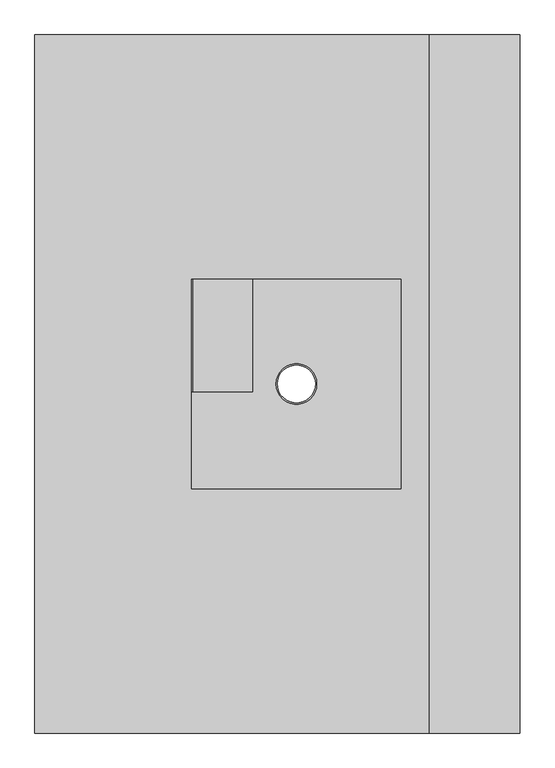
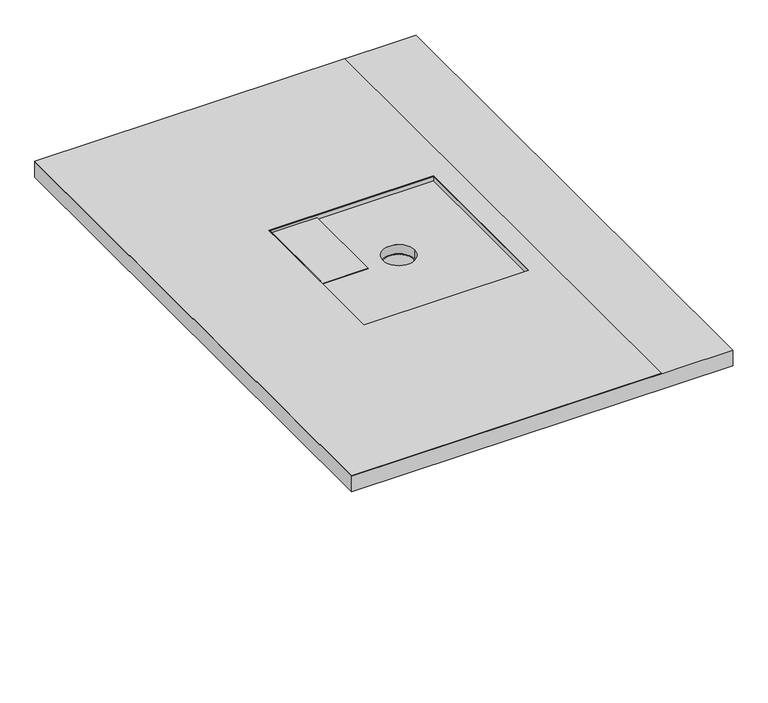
"""IFC4 building model written with IfcOpenShell, lengths in millimetres: proxy geometry, IMPER:IMPER:433934 : IMPER:IMPER:433934."""

from ifc_helpers import new_model, si_unit, point, frame, frame_2d, origin, place, context, project, spatial, polyline, circle_curve, trimmed, segment, composite_curve, outline, extrude, source, transform, mapped, element, save
from ifc_brep_helpers import plane_surface, revolved_surface, advanced_brep


def generic_models_3323e8c3(model_context):
    return source(origin(), model_context, "Body", "SolidModel", [
        extrude(outline(polyline([(28.5018705, 773.6644952), (28.5018705, 772.6644952), (21.4797492, 772.6644952), (21.4797492, 860.1703196), (22.4797492, 860.1703196), (22.4797492, 773.6644952), (28.5018705, 773.6644952)])), frame((0.0, -1249.0790672, 0.0), z_axis=(0.0, 1.0, 0.0), x_axis=(0.0, 0.0, 1.0)), (0.0, 0.0, 1.0), 161.0878647),
        extrude(outline(composite_curve([segment(trimmed(circle_curve(frame_2d((922.8103968, -1238.0570215)), 29.0), [point((893.8103968, -1238.0570215))], [point((951.8103968, -1238.0570215))], False, "CARTESIAN"), True, "CONTINUOUS"), segment(trimmed(circle_curve(frame_2d((922.8103968, -1238.0570215)), 29.0), [point((951.8103968, -1238.0570215))], [point((893.8103968, -1238.0570215))], False, "CARTESIAN"), True, "CONTINUOUS")], self_intersect=False), holes=[composite_curve([segment(trimmed(circle_curve(frame_2d((922.8103968, -1238.0570215)), 27.0), [point((895.8103968, -1238.0570215))], [point((949.8103968, -1238.0570215))], True, "CARTESIAN"), True, "CONTINUOUS"), segment(trimmed(circle_curve(frame_2d((922.8103968, -1238.0570215)), 27.0), [point((949.8103968, -1238.0570215))], [point((895.8103968, -1238.0570215))], True, "CARTESIAN"), True, "CONTINUOUS")], self_intersect=False)]), frame((0.0, 0.0, -340.9331242), z_axis=(0.0, 0.0, 1.0), x_axis=(1.0, 0.0, 0.0)), (0.0, 0.0, 1.0), 343.0051027),
        advanced_brep(
        [(1243.085242, -738.0570215, 27.476202), (1243.085242, -738.0570215, -2.523798), (547.8103968, -738.0570215, -2.523798), (547.8103968, -738.0570215, 27.476202), (1243.085242, -1738.0570215, 27.476202), (547.8103968, -1738.0570215, 27.476202), (547.8103968, -1738.0570215, -2.523798), (1243.085242, -1738.0570215, -2.523798), (772.6644952, -1087.9912025, 27.476202), (1072.6644952, -1087.9912025, 27.476202), (1072.6644952, -1387.9912025, 27.476202), (772.6644952, -1387.9912025, 27.476202), (951.8103968, -1238.0570215, -2.523798), (893.8103968, -1238.0570215, -2.523798), (951.8103968, -1238.0570215, 19.4061759), (893.8103968, -1238.0570215, 19.4061759), (772.6644952, -1087.9912025, 19.4061759), (1072.6644952, -1087.9912025, 19.4061759), (772.6644952, -1387.9912025, 19.4061759), (1072.6644952, -1387.9912025, 19.4061759)],
        [
            (0, 1),
            (1, 2),
            (2, 3),
            (3, 0),
            (4, 5),
            (5, 6),
            (6, 7),
            (7, 4),
            (3, 5),
            (4, 0),
            (8, 9),
            (9, 10),
            (10, 11),
            (11, 8),
            (7, 1),
            (6, 2),
            (12, 13, circle_curve(frame((922.8103968, -1238.0570215, -2.523798), z_axis=(0.0, 0.0, 1.0), x_axis=(1.0, 0.0, 0.0)), 29.0)),
            (13, 12, circle_curve(frame((922.8103968, -1238.0570215, -2.523798), z_axis=(0.0, 0.0, 1.0), x_axis=(1.0, 0.0, 0.0)), 29.0)),
            (12, 14),
            (14, 15, circle_curve(frame((922.8103968, -1238.0570215, 19.4061759), z_axis=(0.0, 0.0, 1.0), x_axis=(1.0, 0.0, 0.0)), 29.0)),
            (15, 13),
            (15, 14, circle_curve(frame((922.8103968, -1238.0570215, 19.4061759), z_axis=(0.0, 0.0, 1.0), x_axis=(1.0, 0.0, 0.0)), 29.0)),
            (16, 17),
            (17, 9),
            (8, 16),
            (18, 16),
            (11, 18),
            (19, 18),
            (10, 19),
            (17, 19),
        ],
        [
            plane_surface(frame((1243.085242, -738.0570215, -2.523798), z_axis=(0.0, 1.0, 0.0), x_axis=(0.0, 0.0, -1.0))),
            plane_surface(frame((1243.085242, -1738.0570215, -2.523798), z_axis=(0.0, -1.0, 0.0), x_axis=(0.0, 0.0, 1.0))),
            plane_surface(frame((547.8103968, -738.0570215, 27.476202), z_axis=(0.0, 0.0, 1.0), x_axis=(0.0, -1.0, 0.0))),
            plane_surface(frame((1243.085242, -738.0570215, 27.476202), z_axis=(1.0, 0.0, 0.0), x_axis=(0.0, -1.0, 0.0))),
            plane_surface(frame((1243.085242, -738.0570215, -2.523798), z_axis=(0.0, 0.0, -1.0), x_axis=(0.0, -1.0, 0.0))),
            plane_surface(frame((547.8103968, -738.0570215, -2.523798), z_axis=(-1.0, 0.0, 0.0), x_axis=(0.0, -1.0, 0.0))),
            revolved_surface(polyline([(951.8103968, -1238.0570215, 19.406175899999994), (951.8103968, -1238.0570215, -2.523798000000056)]), (922.8103968, -1238.0570215, -602.3626682), (0.0, 0.0, 1.0)),
            plane_surface(frame((1072.6644952, -1087.9912025, 396.8938125), z_axis=(0.0, -1.0, 0.0), x_axis=(0.0, 0.0, -1.0))),
            plane_surface(frame((772.6644952, -1087.9912025, 396.8938125), z_axis=(1.0, 0.0, 0.0), x_axis=(0.0, 0.0, -1.0))),
            plane_surface(frame((772.6644952, -1387.9912025, 396.8938125), z_axis=(0.0, 1.0, 0.0), x_axis=(0.0, 0.0, -1.0))),
            plane_surface(frame((1072.6644952, -1387.9912025, 396.8938125), z_axis=(-1.0, 0.0, 0.0), x_axis=(0.0, 0.0, -1.0))),
            plane_surface(frame((772.6644952, -1087.9912025, 19.4061759), z_axis=(0.0, 0.0, 1.0), x_axis=(1.0, 0.0, 0.0))),
        ],
        [
            (0, [[1, 2, 3, 4]]),
            (1, [[5, 6, 7, 8]]),
            (2, [[-4, 9, -5, 10], [11, 12, 13, 14]]),
            (3, [[-1, -10, -8, 15]]),
            (4, [[-2, -15, -7, 16], [17, 18]]),
            (5, [[-3, -16, -6, -9]]),
            (6, [[-17, 19, 20, 21]]),
            (6, [[-18, -21, 22, -19]]),
            (7, [[23, 24, -11, 25]]),
            (8, [[26, -25, -14, 27]]),
            (9, [[28, -27, -13, 29]]),
            (10, [[30, -29, -12, -24]]),
            (11, [[-23, -26, -28, -30], [-20, -22]]),
        ],
    ),
        extrude(outline(polyline([(547.8103968, -738.0570215), (1112.6644952, -738.0570215), (1112.6644952, -1738.0570215), (547.8103968, -1738.0570215), (547.8103968, -738.0570215)]), holes=[polyline([(1072.6644952, -1087.9912025), (772.6644952, -1087.9912025), (772.6644952, -1387.9912025), (1072.6644952, -1387.9912025), (1072.6644952, -1087.9912025)])]), frame((0.0, 0.0, 27.476202), z_axis=(0.0, 0.0, 1.0), x_axis=(1.0, 0.0, 0.0)), (0.0, 0.0, 1.0), 1.0256685),
    ])


if __name__ == "__main__":
    model = new_model("IFC4")
    model_context = context("Model", 3, world=origin())
    ifc_project = project(units=[si_unit("LENGTHUNIT", "METRE", prefix="MILLI")], contexts=[model_context])
    site = spatial("IfcSite", under=ifc_project)
    building = spatial("IfcBuilding", under=site)
    placement = place(None, origin())
    generic_models_shape = generic_models_3323e8c3(model_context)
    element("IfcBuildingElementProxy", 1, Name="IMPER:IMPER:433934 : IMPER:IMPER:433934", ObjectType="IMPER:IMPER:433934 : IMPER:IMPER:433934", at=placement, inside=building, context=model_context, shape_type="MappedRepresentation", body=[
        mapped(generic_models_shape, transform((0.0, 0.0, 0.0), x_axis=(1.0, 0.0, 0.0), y_axis=(0.0, 1.0, 0.0), z_axis=(0.0, 0.0, 1.0))),
    ])
    save(model, "model.ifc")
